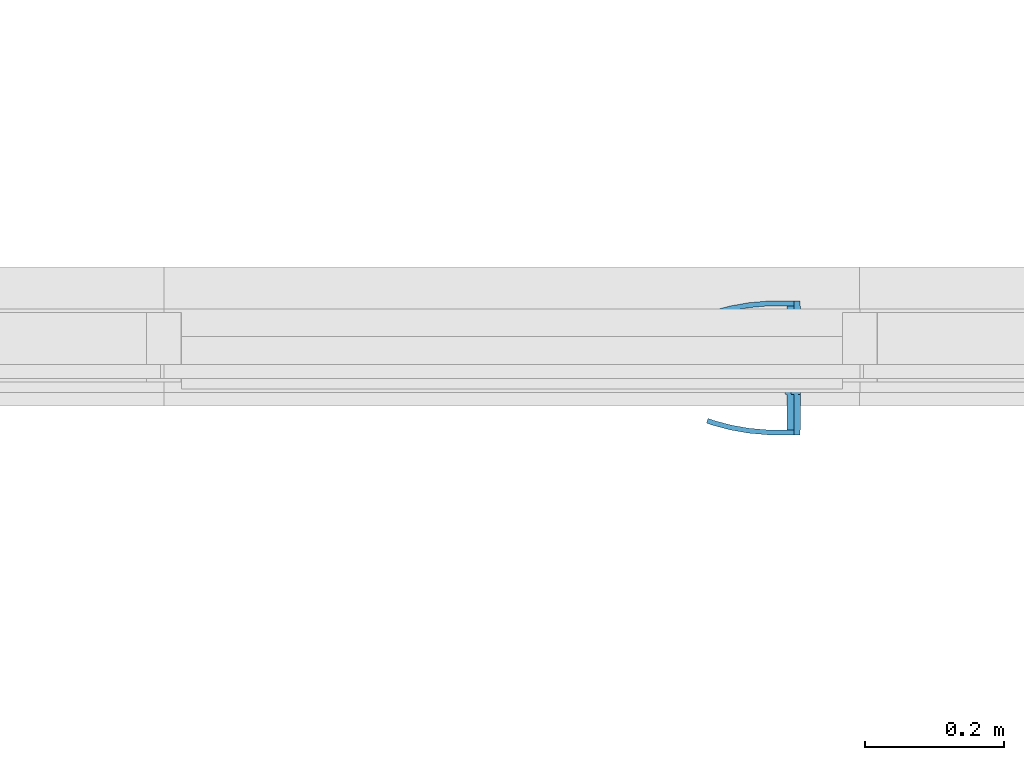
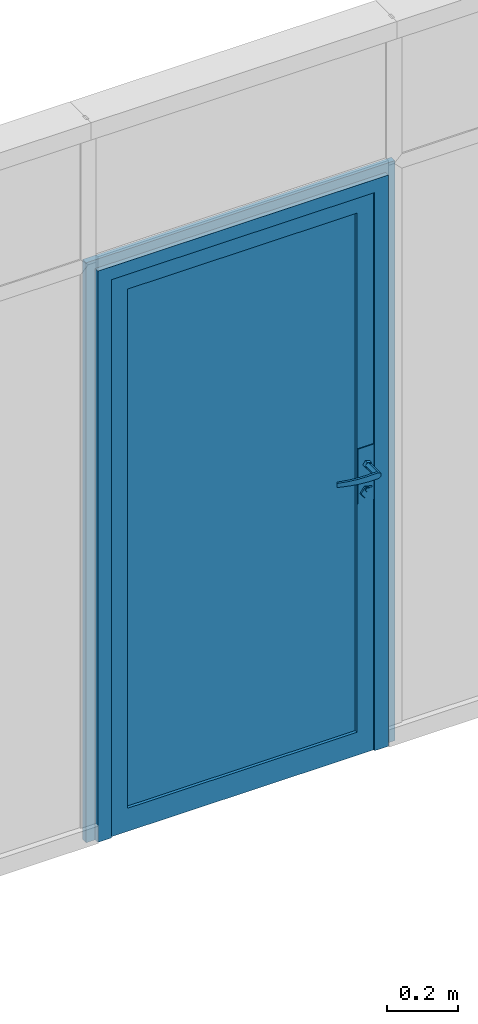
# One storey, part 6 of 7: 1 plate, 1 element without a shape of its own.
"""IFC4 building model written with IfcOpenShell, lengths in millimetres."""

from ifc_helpers import new_model, entity, si_unit, converted_unit, derived_unit, direction, frame, origin_with_axes, place, context, subcontext, project, spatial, polygons, material, constituent, constituent_set, type_object, element, aggregate, save


model = new_model("IFC4")

# Units and contexts
model_context = context("Model", 3, precision=0.01, world=origin_with_axes(), true_north=direction((0.0, 1.0)))
body_context = subcontext(model_context, "Body", "Model", "MODEL_VIEW")
ifc_project = project(units=[si_unit("LENGTHUNIT", "METRE", prefix="MILLI"), si_unit("AREAUNIT", "SQUARE_METRE"), si_unit("VOLUMEUNIT", "CUBIC_METRE"), converted_unit("PLANEANGLEUNIT", "DEGREE", entity("IfcPlaneAngleMeasure", 0.0174532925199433), si_unit("PLANEANGLEUNIT", "RADIAN"), dimensions=[0, 0, 0, 0, 0, 0, 0]), converted_unit("TIMEUNIT", "Year", entity("IfcTimeMeasure", 31557600.0), si_unit("TIMEUNIT", "SECOND"), dimensions=[0, 0, 1, 0, 0, 0, 0]), si_unit("MASSUNIT", "GRAM", prefix="KILO"), si_unit("THERMODYNAMICTEMPERATUREUNIT", "DEGREE_CELSIUS"), si_unit("LUMINOUSINTENSITYUNIT", "LUMEN"), si_unit("ENERGYUNIT", "JOULE", prefix="MEGA"), derived_unit("THERMALCONDUCTANCEUNIT", [(si_unit("POWERUNIT", "WATT"), 1), (si_unit("LENGTHUNIT", "METRE"), -1), (si_unit("THERMODYNAMICTEMPERATUREUNIT", "KELVIN"), -1)]), derived_unit("SPECIFICHEATCAPACITYUNIT", [(si_unit("ENERGYUNIT", "JOULE"), 1), (si_unit("MASSUNIT", "GRAM", prefix="KILO"), -1), (si_unit("THERMODYNAMICTEMPERATUREUNIT", "KELVIN"), -1)]), derived_unit("MASSDENSITYUNIT", [(si_unit("MASSUNIT", "GRAM", prefix="KILO"), 1), (si_unit("VOLUMEUNIT", "CUBIC_METRE"), -1)])], contexts=[model_context])

# Site, building, storey
site_placement = place(None, origin_with_axes())
site = spatial("IfcSite", under=ifc_project, at=site_placement, Name="Exteriér", CompositionType="ELEMENT")
building_placement = place(site_placement, origin_with_axes())
building = spatial("IfcBuilding", under=site, at=building_placement, Name="Univerzitní lezecké centrum", CompositionType="ELEMENT")
storey_placement = place(building_placement, frame((0.0, 0.0, 6400.0), z_axis=(0.0, 0.0, 1.0), x_axis=(1.0, 0.0, 0.0)))
storey = spatial("IfcBuildingStorey", under=building, at=storey_placement, Name="3.NP", CompositionType="ELEMENT", Elevation=6400.0)

# Curtain wall, plate
curtain_wall_type = type_object("IfcCurtainWallType", Name="Typ lehkého obvodového pláště", PredefinedType="NOTDEFINED")
curtain_wall_placement = place(storey_placement, frame((1075.010273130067, -270.0000000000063, -6400.000000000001), z_axis=(0.0, 0.0, 1.0), x_axis=(1.0, 0.0, 0.0)))
curtain_wall = element("IfcCurtainWall", 1, at=curtain_wall_placement, inside=storey, type_object=curtain_wall_type, Name="LOP06", PredefinedType="NOTDEFINED")
ifc_material_1 = material(Name="Hliník")
ifc_constituent_1 = constituent(ifc_material_1, Name="Hliník")
ifc_material_2 = material(Name="Sklo")
ifc_constituent_2 = constituent(ifc_material_2, Name="Sklo")
ifc_material_3 = material(Name="Ocel - nerez")
ifc_constituent_3 = constituent(ifc_material_3, Name="Ocel - nerez")
ifc_constituent_set = constituent_set(constituents=[ifc_constituent_1, ifc_constituent_2, ifc_constituent_3])
plate_type = type_object("IfcPlateType", Name="1000 x 5 x 20", PredefinedType="CURTAIN_PANEL")
plate_placement = place(curtain_wall_placement, frame((1375.083313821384, 0.0, 999.9999675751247), z_axis=(0.0, 0.0, 1.0), x_axis=(-1.0, 0.0, 0.0)))
plate = element("IfcPlate", 2, at=plate_placement, type_object=plate_type, material=ifc_constituent_set, Name="PD010", PredefinedType="CURTAIN_PANEL", context=body_context, shape_type="Tessellation", body=[
    polygons([(-474.9999928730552, 20.00000000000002, -999.9999675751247), (-474.9999928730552, 19.99999999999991, 975.0000179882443), (-474.9999928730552, 24.99999999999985, 975.0000179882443), (-474.9999928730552, 25.00000000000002, -999.9999675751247), (-429.9999928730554, 20.00000000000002, -999.9999675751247), (-429.9999928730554, 19.99999999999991, 930.0000179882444), (-429.9999928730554, 24.99999999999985, 930.0000179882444), (-429.9999928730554, 25.00000000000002, -999.9999675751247)], [[[1, 2, 3, 4]], [[1, 5, 6, 2]], [[2, 6, 7, 3]], [[4, 3, 7, 8]], [[5, 1, 4, 8]], [[6, 5, 8, 7]]], closed=True),
    polygons([(475.0000001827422, 19.99999999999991, 975.0000179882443), (430.000000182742, 19.99999999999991, 930.0000179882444), (430.000000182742, 24.99999999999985, 930.0000179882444), (475.0000001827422, 24.99999999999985, 975.0000179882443), (-474.9999928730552, 19.99999999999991, 975.0000179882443), (-429.9999928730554, 19.99999999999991, 930.0000179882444), (-429.9999928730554, 24.99999999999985, 930.0000179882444), (-474.9999928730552, 24.99999999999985, 975.0000179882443)], [[[1, 2, 3, 4]], [[1, 5, 6, 2]], [[2, 6, 7, 3]], [[4, 3, 7, 8]], [[5, 1, 4, 8]], [[6, 5, 8, 7]]], closed=True),
    polygons([(475.0000001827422, 20.00000000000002, -999.9999675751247), (430.000000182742, 20.00000000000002, -999.9999675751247), (430.000000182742, 25.00000000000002, -999.9999675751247), (475.0000001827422, 25.00000000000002, -999.9999675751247), (475.0000001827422, 19.99999999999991, 975.0000179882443), (430.000000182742, 19.99999999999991, 930.0000179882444), (430.000000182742, 24.99999999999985, 930.0000179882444), (475.0000001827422, 24.99999999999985, 975.0000179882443)], [[[1, 2, 3, 4]], [[1, 5, 6, 2]], [[2, 6, 7, 3]], [[4, 3, 7, 8]], [[5, 1, 4, 8]], [[6, 5, 8, 7]]], closed=True),
    polygons([(-474.9999928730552, -30.0, -999.9999675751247), (-474.9999928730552, -30.00000000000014, 975.0000179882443), (-474.9999928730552, 19.99999999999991, 975.0000179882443), (-474.9999928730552, 20.00000000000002, -999.9999675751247), (-454.9999928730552, -30.0, -999.9999675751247), (-454.9999928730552, -30.00000000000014, 955.0000179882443), (-454.9999928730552, 19.99999999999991, 955.0000179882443), (-454.9999928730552, 20.00000000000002, -999.9999675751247)], [[[1, 2, 3, 4]], [[1, 5, 6, 2]], [[2, 6, 7, 3]], [[4, 3, 7, 8]], [[5, 1, 4, 8]], [[6, 5, 8, 7]]], closed=True),
    polygons([(475.0000001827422, -30.00000000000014, 975.0000179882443), (455.0000001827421, -30.00000000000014, 955.0000179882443), (455.0000001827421, 19.99999999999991, 955.0000179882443), (475.0000001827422, 19.99999999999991, 975.0000179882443), (-474.9999928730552, -30.00000000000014, 975.0000179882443), (-454.9999928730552, -30.00000000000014, 955.0000179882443), (-454.9999928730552, 19.99999999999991, 955.0000179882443), (-474.9999928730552, 19.99999999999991, 975.0000179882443)], [[[1, 2, 3, 4]], [[1, 5, 6, 2]], [[2, 6, 7, 3]], [[4, 3, 7, 8]], [[5, 1, 4, 8]], [[6, 5, 8, 7]]], closed=True),
    polygons([(475.0000001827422, -30.0, -999.9999675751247), (455.0000001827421, -30.0, -999.9999675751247), (455.0000001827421, 20.00000000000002, -999.9999675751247), (475.0000001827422, 20.00000000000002, -999.9999675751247), (475.0000001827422, -30.00000000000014, 975.0000179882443), (455.0000001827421, -30.00000000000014, 955.0000179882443), (455.0000001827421, 19.99999999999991, 955.0000179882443), (475.0000001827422, 19.99999999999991, 975.0000179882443)], [[[1, 2, 3, 4]], [[1, 5, 6, 2]], [[2, 6, 7, 3]], [[4, 3, 7, 8]], [[5, 1, 4, 8]], [[6, 5, 8, 7]]], closed=True),
    polygons([(-505.0000098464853, -10.00000000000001, -999.9999675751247), (-505.0000098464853, -10.00000000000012, 1005.000017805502), (-505.0000098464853, 9.999999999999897, 1005.000017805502), (-505.0000098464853, 10.00000000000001, -999.9999675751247), (-474.9999928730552, -10.00000000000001, -999.9999675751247), (-474.9999928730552, -10.00000000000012, 975.0000179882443), (-474.9999928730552, 9.999999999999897, 975.0000179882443), (-474.9999928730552, 10.00000000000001, -999.9999675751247)], [[[1, 2, 3, 4]], [[1, 5, 6, 2]], [[2, 6, 7, 3]], [[4, 3, 7, 8]], [[5, 1, 4, 8]], [[6, 5, 8, 7]]], closed=True),
    polygons([(-505.0000098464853, -10.00000000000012, 1005.000017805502), (504.9999999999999, -10.00000000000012, 1005.000017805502), (504.9999999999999, 9.999999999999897, 1005.000017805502), (-505.0000098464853, 9.999999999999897, 1005.000017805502), (-474.9999928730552, -10.00000000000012, 975.0000179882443), (475.0000001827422, -10.00000000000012, 975.0000179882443), (475.0000001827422, 9.999999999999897, 975.0000179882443), (-474.9999928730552, 9.999999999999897, 975.0000179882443)], [[[1, 2, 3, 4]], [[1, 5, 6, 2]], [[2, 6, 7, 3]], [[4, 3, 7, 8]], [[5, 1, 4, 8]], [[6, 5, 8, 7]]], closed=True),
    polygons([(504.9999999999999, -10.00000000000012, 1005.000017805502), (504.9999999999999, -10.00000000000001, -999.9999675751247), (504.9999999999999, 10.00000000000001, -999.9999675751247), (504.9999999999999, 9.999999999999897, 1005.000017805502), (475.0000001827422, -10.00000000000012, 975.0000179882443), (475.0000001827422, -10.00000000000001, -999.9999675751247), (475.0000001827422, 10.00000000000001, -999.9999675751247), (475.0000001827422, 9.999999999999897, 975.0000179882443)], [[[1, 2, 3, 4]], [[1, 5, 6, 2]], [[2, 6, 7, 3]], [[4, 3, 7, 8]], [[5, 1, 4, 8]], [[6, 5, 8, 7]]], closed=True),
    polygons([(375.0000001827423, 19.99999999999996, -919.9999675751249), (375.0000001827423, -30.00000000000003, -919.9999675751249), (375.0000001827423, -30.00000000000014, 875.0000179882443), (375.0000001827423, 19.99999999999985, 875.0000179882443), (455.0000001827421, 19.99999999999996, -999.9999675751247), (455.0000001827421, -30.00000000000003, -999.9999675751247), (455.0000001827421, -30.00000000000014, 955.0000179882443), (455.0000001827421, 19.99999999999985, 955.0000179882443)], [[[1, 2, 3, 4]], [[5, 6, 2, 1]], [[2, 6, 7, 3]], [[4, 3, 7, 8]], [[1, 4, 8, 5]], [[8, 7, 6, 5]]], closed=True),
    polygons([(-454.9999928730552, 20.00000000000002, -999.9999675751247), (-454.9999928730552, -29.99999999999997, -999.9999675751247), (-454.9999928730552, -30.00000000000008, 955.0000179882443), (-454.9999928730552, 19.99999999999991, 955.0000179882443), (-374.9999928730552, 20.00000000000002, -919.9999675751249), (-374.9999928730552, -29.99999999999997, -919.9999675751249), (-374.9999928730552, -30.00000000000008, 875.0000179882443), (-374.9999928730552, 19.99999999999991, 875.0000179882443)], [[[1, 2, 3, 4]], [[5, 6, 2, 1]], [[2, 6, 7, 3]], [[4, 3, 7, 8]], [[1, 4, 8, 5]], [[8, 7, 6, 5]]], closed=True),
    polygons([(-454.9999928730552, 20.00000000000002, -999.9999675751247), (-454.9999928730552, -29.99999999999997, -999.9999675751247), (-374.9999928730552, -29.99999999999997, -919.9999675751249), (-374.9999928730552, 20.00000000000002, -919.9999675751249), (455.0000001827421, 19.99999999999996, -999.9999675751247), (455.0000001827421, -30.00000000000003, -999.9999675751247), (375.0000001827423, -30.00000000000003, -919.9999675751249), (375.0000001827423, 19.99999999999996, -919.9999675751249)], [[[1, 2, 3, 4]], [[5, 6, 2, 1]], [[2, 6, 7, 3]], [[4, 3, 7, 8]], [[1, 4, 8, 5]], [[8, 7, 6, 5]]], closed=True),
    polygons([(455.0000001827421, 19.99999999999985, 955.0000179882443), (455.0000001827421, -30.00000000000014, 955.0000179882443), (375.0000001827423, -30.00000000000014, 875.0000179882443), (375.0000001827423, 19.99999999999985, 875.0000179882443), (-454.9999928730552, 19.99999999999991, 955.0000179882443), (-454.9999928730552, -30.00000000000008, 955.0000179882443), (-374.9999928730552, -30.00000000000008, 875.0000179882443), (-374.9999928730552, 19.99999999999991, 875.0000179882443)], [[[1, 2, 3, 4]], [[5, 6, 2, 1]], [[2, 6, 7, 3]], [[4, 3, 7, 8]], [[1, 4, 8, 5]], [[8, 7, 6, 5]]], closed=True),
    polygons([(375.0000001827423, 10.00000000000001, -919.9999675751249), (375.0000001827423, -6.000000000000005, -919.9999675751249), (-374.9999928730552, -6.000000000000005, -919.9999675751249), (-374.9999928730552, 10.00000000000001, -919.9999675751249), (375.0000001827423, 9.999999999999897, 875.0000179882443), (375.0000001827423, -6.000000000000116, 875.0000179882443), (-374.9999928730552, -6.000000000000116, 875.0000179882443), (-374.9999928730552, 9.999999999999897, 875.0000179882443)], [[[1, 2, 3, 4]], [[5, 6, 2, 1]], [[2, 6, 7, 3]], [[4, 3, 7, 8]], [[1, 4, 8, 5]], [[8, 7, 6, 5]]], closed=True),
    polygons([(-433.4999928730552, -30.00000000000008, 60.00003242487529), (-433.4999928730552, -33.00000000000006, 60.00003242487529), (-376.4999928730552, -33.00000000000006, 60.00003242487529), (-376.4999928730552, -30.00000000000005, 60.00003242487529), (-433.4999928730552, -30.00000000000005, -129.9999675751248), (-433.4999928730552, -33.00000000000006, -129.9999675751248), (-376.4999928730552, -33.00000000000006, -129.9999675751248), (-376.4999928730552, -30.00000000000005, -129.9999675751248)], [[[1, 2, 3, 4]], [[5, 6, 2, 1]], [[2, 6, 7, 3]], [[4, 3, 7, 8]], [[1, 4, 8, 5]], [[8, 7, 6, 5]]], closed=True),
    polygons([(-404.999992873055, -94.00000000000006, -9.99996757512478), (-404.999992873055, -101.0000000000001, -9.99996757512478), (-413.6602469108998, -101.0000000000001, -4.999967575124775), (-413.6602469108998, -94.00000000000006, -4.999967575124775), (-379.9999928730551, -94.00000000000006, -9.99996757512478), (-379.9999928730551, -101.0, -9.99996757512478), (-379.9999928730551, -101.0, 10.00003242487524), (-404.999992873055, -101.0000000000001, 10.00003242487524), (-413.6602469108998, -101.0000000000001, 5.000032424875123), (-413.6602469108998, -94.00000000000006, 5.000032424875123), (-404.999992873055, -94.00000000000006, 10.00003242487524), (-379.9999928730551, -94.00000000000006, 10.00003242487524)], [[[1, 2, 3, 4]], [[5, 6, 2, 1]], [[2, 6, 7, 8, 9, 3]], [[4, 3, 9, 10]], [[1, 4, 10, 11, 12, 5]], [[11, 8, 7, 12]], [[10, 9, 8, 11]]], closed=False),
    polygons([(-379.9999928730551, -94.00000000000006, 10.00003242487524), (-366.5960834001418, -101.0, 9.607333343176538), (-366.9017100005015, -94.00000000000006, 9.607333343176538), (-379.9999928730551, -101.0000000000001, 10.00003242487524), (-339.890276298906, -98.66354462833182, 8.821935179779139), (-366.9017100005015, -94.00000000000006, -9.60726849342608), (-379.9999928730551, -94.00000000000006, -9.99996757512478), (-379.9999928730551, -101.0000000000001, -9.99996757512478), (-366.5960834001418, -101.0, -9.60726849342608), (-339.890276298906, -98.66354462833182, -8.82187033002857), (-340.8048300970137, -91.71681885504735, 8.821935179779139), (-340.8048300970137, -91.71681885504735, -8.82187033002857), (-313.4897283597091, -94.00841572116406, -8.036472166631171), (-313.4897283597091, -94.00841572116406, 8.036537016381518), (-315.0062490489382, -87.16783295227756, 8.036537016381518), (-315.0062490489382, -87.16783295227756, -8.036472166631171), (-287.5953636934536, -87.070041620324, -7.25107400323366), (-287.5953636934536, -87.070041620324, 7.251138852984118), (-289.7023096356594, -80.38766282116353, 7.251138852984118), (-289.7023096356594, -80.38766282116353, -7.25107400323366), (-279.5387885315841, -84.13768807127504, -6.999967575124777), (-279.5387885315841, -84.13768807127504, 7.000032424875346), (-281.8294348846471, -77.52217075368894, 7.000032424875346), (-281.8294348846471, -77.52217075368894, -6.999967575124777)], [[[1, 2, 3]], [[1, 4, 2]], [[3, 2, 5]], [[1, 3, 6, 7]], [[4, 8, 9, 2]], [[2, 9, 10, 5]], [[3, 5, 11]], [[3, 11, 12, 6]], [[6, 8, 7]], [[6, 9, 8]], [[12, 10, 9]], [[5, 10, 13, 14]], [[11, 5, 14]], [[11, 15, 16, 12]], [[12, 9, 6]], [[16, 10, 12]], [[16, 13, 10]], [[14, 13, 17, 18]], [[11, 14, 15]], [[15, 19, 20, 16]], [[20, 13, 16]], [[20, 17, 13]], [[18, 17, 21, 22]], [[15, 14, 18]], [[15, 18, 19]], [[19, 23, 24, 20]], [[24, 17, 20]], [[24, 21, 17]], [[23, 22, 21, 24]], [[19, 18, 22]], [[19, 22, 23]]], closed=False),
    polygons([(-401.291788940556, -43.00000000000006, -11.41264577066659), (-400.9827719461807, -33.00000000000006, -12.36370228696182), (-391.9999928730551, -33.00000000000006, 3.24248752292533e-05), (-392.9999928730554, -43.00000000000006, 3.24248752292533e-05), (-414.7081968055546, -43.00000000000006, -7.053390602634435), (-415.5172137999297, -33.00000000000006, -7.641175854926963), (-415.5172137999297, -33.00000000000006, 7.64124070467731), (-400.9827719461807, -33.00000000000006, 12.36376713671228), (-401.291788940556, -43.00000000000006, 11.41271062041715), (-414.7081968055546, -43.00000000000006, 7.053455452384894)], [[[1, 2, 3, 4]], [[5, 6, 2, 1]], [[3, 2, 6, 7, 8]], [[4, 3, 8, 9]], [[4, 9, 10, 5, 1]], [[10, 7, 6, 5]], [[9, 8, 7, 10]]], closed=True),
    polygons([(-398.8196529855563, -37.00000000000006, -114.0210979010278), (-398.2016189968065, -33.00000000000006, -115.9232109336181), (-382.9999928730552, -33.00000000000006, -94.99996757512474), (-384.9999928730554, -37.00000000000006, -94.99996757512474), (-421.1803327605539, -37.00000000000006, -106.7556726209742), (-422.798366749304, -33.00000000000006, -107.9312431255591), (-422.798366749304, -33.00000000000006, -82.06869202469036), (-398.2016189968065, -33.00000000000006, -74.07672421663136), (-398.8196529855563, -37.00000000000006, -75.97883724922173), (-421.1803327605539, -37.00000000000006, -83.2442625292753)], [[[1, 2, 3, 4]], [[5, 6, 2, 1]], [[3, 2, 6, 7, 8]], [[4, 3, 8, 9]], [[4, 9, 10, 5, 1]], [[10, 7, 6, 5]], [[9, 8, 7, 10]]], closed=True),
    polygons([(-402.8368739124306, -39.00000000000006, -92.65736318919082), (-402.5278569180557, -37.00000000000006, -93.60841970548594), (-396.999992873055, -37.00000000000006, -85.99996757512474), (-397.9999928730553, -39.00000000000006, -85.99996757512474), (-410.6631118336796, -39.00000000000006, -90.1144643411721), (-411.4721288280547, -37.00000000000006, -90.70224959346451), (-411.4721288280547, -37.00000000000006, -81.29768555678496), (-402.5278569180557, -37.00000000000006, -78.39151544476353), (-402.8368739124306, -39.00000000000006, -79.34257196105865), (-410.6631118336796, -39.00000000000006, -81.88547080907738)], [[[1, 2, 3, 4]], [[5, 6, 2, 1]], [[3, 2, 6, 7, 8]], [[4, 3, 8, 9]], [[4, 9, 10, 5, 1]], [[10, 7, 6, 5]], [[9, 8, 7, 10]]], closed=True),
    polygons([(-404.999992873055, -43.00000000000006, 10.00003242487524), (-404.999992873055, -94.00000000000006, 10.00003242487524), (-395.4894277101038, -94.00000000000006, 3.090202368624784), (-395.4894277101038, -43.00000000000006, 3.090202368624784), (-414.5105580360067, -43.00000000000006, 3.090202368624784), (-414.5105580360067, -94.00000000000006, 3.090202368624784), (-410.87784539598, -94.00000000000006, -8.090137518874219), (-399.1221403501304, -94.00000000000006, -8.090137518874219), (-399.1221403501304, -43.00000000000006, -8.090137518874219), (-410.87784539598, -43.00000000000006, -8.090137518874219)], [[[1, 2, 3, 4]], [[5, 6, 2, 1]], [[2, 6, 7, 8, 3]], [[4, 3, 8, 9]], [[1, 4, 9, 10, 5]], [[10, 7, 6, 5]], [[9, 8, 7, 10]]], closed=True),
    polygons([(-433.4999928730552, 19.99999999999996, 60.00003242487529), (-376.4999928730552, 19.99999999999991, 60.00003242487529), (-376.4999928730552, 22.99999999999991, 60.00003242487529), (-433.4999928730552, 22.99999999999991, 60.00003242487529), (-433.4999928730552, 19.99999999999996, -129.9999675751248), (-376.4999928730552, 19.99999999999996, -129.9999675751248), (-376.4999928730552, 22.99999999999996, -129.9999675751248), (-433.4999928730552, 22.99999999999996, -129.9999675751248)], [[[1, 2, 3, 4]], [[1, 5, 6, 2]], [[2, 6, 7, 3]], [[4, 3, 7, 8]], [[5, 1, 4, 8]], [[6, 5, 8, 7]]], closed=True),
    polygons([(-404.999992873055, 83.99999999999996, -9.99996757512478), (-413.6602469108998, 83.99999999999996, -4.999967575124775), (-413.6602469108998, 90.99999999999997, -4.999967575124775), (-404.999992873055, 90.99999999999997, -9.99996757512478), (-379.9999928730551, 83.99999999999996, -9.99996757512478), (-379.9999928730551, 83.99999999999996, 10.00003242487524), (-404.999992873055, 83.99999999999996, 10.00003242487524), (-413.6602469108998, 83.99999999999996, 5.000032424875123), (-413.6602469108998, 90.99999999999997, 5.000032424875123), (-404.999992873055, 90.99999999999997, 10.00003242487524), (-379.9999928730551, 90.99999999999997, 10.00003242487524), (-379.9999928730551, 90.99999999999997, -9.99996757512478)], [[[1, 2, 3, 4]], [[1, 5, 6, 7, 8, 2]], [[2, 8, 9, 3]], [[4, 3, 9, 10, 11, 12]], [[5, 1, 4, 12]], [[7, 6, 11, 10]], [[8, 7, 10, 9]]], closed=False),
    polygons([(-379.9999928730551, 83.99999999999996, 10.00003242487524), (-366.9017100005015, 83.99999999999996, 9.607333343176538), (-366.5960834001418, 90.99999999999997, 9.607333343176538), (-379.9999928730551, 83.99999999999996, -9.99996757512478), (-366.9017100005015, 83.99999999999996, -9.60726849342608), (-339.890276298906, 88.6635446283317, 8.821935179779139), (-379.9999928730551, 90.99999999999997, 10.00003242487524), (-379.9999928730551, 90.99999999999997, -9.99996757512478), (-340.8048300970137, 81.71681885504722, -8.82187033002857), (-340.8048300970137, 81.71681885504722, 8.821935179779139), (-339.890276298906, 88.6635446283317, -8.82187033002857), (-366.5960834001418, 90.99999999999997, -9.60726849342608), (-315.0062490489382, 77.16783295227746, -8.036472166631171), (-315.0062490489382, 77.16783295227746, 8.036537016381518), (-313.4897283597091, 84.00841572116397, 8.036537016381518), (-313.4897283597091, 84.00841572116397, -8.036472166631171), (-289.7023096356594, 70.38766282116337, -7.25107400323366), (-289.7023096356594, 70.38766282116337, 7.251138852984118), (-287.5953636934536, 77.07004162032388, 7.251138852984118), (-287.5953636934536, 77.07004162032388, -7.25107400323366), (-281.8294348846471, 67.52217075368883, -6.999967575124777), (-281.8294348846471, 67.52217075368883, 7.000032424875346), (-279.5387885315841, 74.13768807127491, 7.000032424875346), (-279.5387885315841, 74.13768807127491, -6.999967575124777)], [[[1, 2, 3]], [[1, 4, 5, 2]], [[2, 6, 3]], [[1, 3, 7]], [[5, 4, 8]], [[2, 5, 9, 10]], [[2, 10, 6]], [[3, 6, 11, 12]], [[7, 3, 12, 8]], [[5, 8, 12]], [[9, 5, 12]], [[10, 9, 13, 14]], [[10, 15, 6]], [[6, 15, 16, 11]], [[9, 12, 11]], [[13, 9, 11]], [[14, 13, 17, 18]], [[10, 14, 15]], [[15, 19, 20, 16]], [[13, 11, 16]], [[17, 13, 16]], [[18, 17, 21, 22]], [[14, 18, 19]], [[14, 19, 15]], [[19, 23, 24, 20]], [[17, 16, 20]], [[21, 17, 20]], [[22, 21, 24, 23]], [[18, 22, 23]], [[18, 23, 19]], [[21, 20, 24]]], closed=False),
    polygons([(-401.291788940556, 32.99999999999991, -11.41264577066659), (-392.9999928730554, 32.99999999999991, 3.24248752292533e-05), (-391.9999928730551, 22.99999999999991, 3.24248752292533e-05), (-400.9827719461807, 22.99999999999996, -12.36370228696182), (-414.7081968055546, 32.99999999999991, -7.053390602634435), (-414.7081968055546, 32.99999999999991, 7.053455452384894), (-401.291788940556, 32.99999999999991, 11.41271062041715), (-400.9827719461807, 22.99999999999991, 12.36376713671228), (-415.5172137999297, 22.99999999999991, 7.64124070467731), (-415.5172137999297, 22.99999999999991, -7.641175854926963)], [[[1, 2, 3, 4]], [[2, 1, 5, 6, 7]], [[2, 7, 8, 3]], [[3, 8, 9, 10, 4]], [[5, 1, 4, 10]], [[6, 5, 10, 9]], [[7, 6, 9, 8]]], closed=True),
    polygons([(-398.8196529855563, 26.99999999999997, -114.0210979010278), (-384.9999928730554, 26.99999999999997, -94.99996757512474), (-382.9999928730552, 22.99999999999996, -94.99996757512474), (-398.2016189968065, 22.99999999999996, -115.9232109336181), (-421.1803327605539, 26.99999999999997, -106.7556726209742), (-421.1803327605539, 26.99999999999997, -83.2442625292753), (-398.8196529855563, 26.99999999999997, -75.97883724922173), (-398.2016189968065, 22.99999999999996, -74.07672421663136), (-422.798366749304, 22.99999999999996, -82.06869202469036), (-422.798366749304, 22.99999999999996, -107.9312431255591)], [[[1, 2, 3, 4]], [[2, 1, 5, 6, 7]], [[2, 7, 8, 3]], [[3, 8, 9, 10, 4]], [[5, 1, 4, 10]], [[6, 5, 10, 9]], [[7, 6, 9, 8]]], closed=True),
    polygons([(-402.8368739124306, 28.99999999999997, -92.65736318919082), (-397.9999928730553, 28.99999999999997, -85.99996757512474), (-396.999992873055, 26.99999999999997, -85.99996757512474), (-402.5278569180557, 26.99999999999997, -93.60841970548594), (-410.6631118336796, 28.99999999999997, -90.1144643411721), (-410.6631118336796, 28.99999999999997, -81.88547080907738), (-402.8368739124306, 28.99999999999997, -79.34257196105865), (-402.5278569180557, 26.99999999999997, -78.39151544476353), (-411.4721288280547, 26.99999999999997, -81.29768555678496), (-411.4721288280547, 26.99999999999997, -90.70224959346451)], [[[1, 2, 3, 4]], [[2, 1, 5, 6, 7]], [[2, 7, 8, 3]], [[3, 8, 9, 10, 4]], [[5, 1, 4, 10]], [[6, 5, 10, 9]], [[7, 6, 9, 8]]], closed=True),
    polygons([(-404.999992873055, 32.99999999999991, 10.00003242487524), (-395.4894277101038, 32.99999999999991, 3.090202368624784), (-395.4894277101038, 83.99999999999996, 3.090202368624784), (-404.999992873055, 83.99999999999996, 10.00003242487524), (-414.5105580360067, 32.99999999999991, 3.090202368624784), (-410.87784539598, 32.99999999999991, -8.090137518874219), (-399.1221403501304, 32.99999999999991, -8.090137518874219), (-399.1221403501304, 83.99999999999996, -8.090137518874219), (-410.87784539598, 83.99999999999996, -8.090137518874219), (-414.5105580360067, 83.99999999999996, 3.090202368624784)], [[[1, 2, 3, 4]], [[1, 5, 6, 7, 2]], [[2, 7, 8, 3]], [[4, 3, 8, 9, 10]], [[5, 1, 4, 10]], [[6, 5, 10, 9]], [[7, 6, 9, 8]]], closed=True),
])
aggregate(curtain_wall, [plate])

save(model, "model.ifc")
